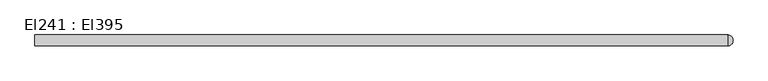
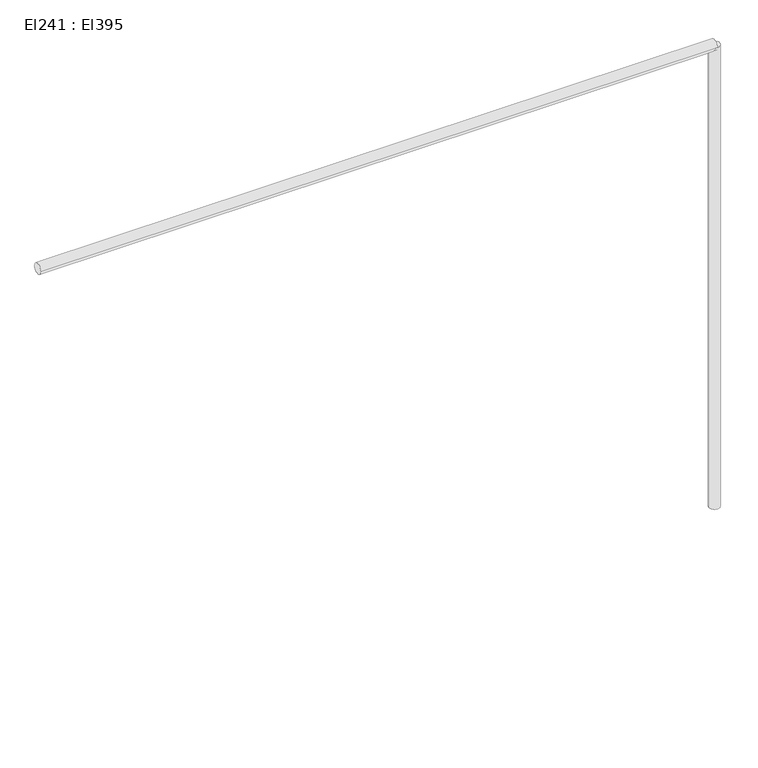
"""IFC4 building model written with IfcOpenShell, lengths in millimetres: cable carrier segment geometry, El241 : El395."""

import ifcopenshell
import ifcopenshell.guid

model = None  # the IFC model being written
_history = None  # IfcOwnerHistory: only IFC2X3 demands one
_inside = {}  # id of a spatial element -> (the spatial element, [elements in it])
_under = {}  # id of a project, library or spatial element -> (it, [spatial elements below it])
_declared = {}  # id of a project -> (the project, [libraries it declares])
_typed = {}  # id of a type object -> (the type object, [elements of that type])
_made_of = {}  # id of a material, layer set ... -> (it, [elements and type objects made of it])


def new_model(schema):
    """Start an empty IFC model of exactly this schema.

    Asked for "IFC4X3", IfcOpenShell would pick the latest addendum, in which some entities
    have other attributes; the version numbers below select the first issue.
    IFC2X3 requires an IfcOwnerHistory on every rooted entity: one is made here for all.
    """
    global model, _history
    if schema == "IFC4X3":
        model = ifcopenshell.file(schema_version=(4, 3, 0, 0))
    else:
        model = ifcopenshell.file(schema=schema)
    _inside.clear()
    _under.clear()
    _declared.clear()
    _typed.clear()
    _made_of.clear()
    _history = None
    if model.schema == "IFC2X3":
        org = make("IfcOrganization", Name="unknown")
        user = make(
            "IfcPersonAndOrganization",
            ThePerson=make("IfcPerson", FamilyName="unknown"),
            TheOrganization=org,
        )
        app = make(
            "IfcApplication",
            ApplicationDeveloper=org,
            Version="unknown",
            ApplicationFullName="unknown",
            ApplicationIdentifier="unknown",
        )
        _history = make(
            "IfcOwnerHistory",
            OwningUser=user,
            OwningApplication=app,
            ChangeAction="ADDED",
            CreationDate=0,
        )
    return model


def make(cls, **values):
    """One entity of the class cls with the attributes given. An attribute that is None is left unset."""
    return model.create_entity(
        cls, **{name: value for name, value in values.items() if value is not None}
    )


def rooted(cls, **values):
    """An entity with a GlobalId (a new one), such as an element, a storey or a relation."""
    return make(cls, GlobalId=ifcopenshell.guid.new(), OwnerHistory=_history, **values)


def si_unit(unit_type, name, prefix=None):
    """IfcSIUnit, for example si_unit("LENGTHUNIT", "METRE", prefix="MILLI")."""
    return make("IfcSIUnit", UnitType=unit_type, Prefix=prefix, Name=name)


def assignment(units):
    """IfcUnitAssignment: the units of a project."""
    return None if units is None else make("IfcUnitAssignment", Units=units)


def point(xyz):
    """IfcCartesianPoint."""
    return None if xyz is None else make("IfcCartesianPoint", Coordinates=xyz)


def direction(xyz):
    """IfcDirection."""
    return None if xyz is None else make("IfcDirection", DirectionRatios=xyz)


def frame(location, z_axis=None, x_axis=None):
    """IfcAxis2Placement3D, a coordinate frame: its origin and axes. An axis left out is left unset."""
    return make(
        "IfcAxis2Placement3D",
        Location=point(location),
        Axis=direction(z_axis),
        RefDirection=direction(x_axis),
    )


def frame_2d(location, x_axis=None):
    """IfcAxis2Placement2D, a coordinate frame in the plane: its origin and x axis."""
    return make(
        "IfcAxis2Placement2D", Location=point(location), RefDirection=direction(x_axis)
    )


def origin():
    """The frame at (0, 0, 0) with its axes left unset."""
    return frame((0.0, 0.0, 0.0))


def place(relative_to, where):
    """IfcLocalPlacement: puts the frame where relative to a parent placement (None: the world)."""
    return make(
        "IfcLocalPlacement", PlacementRelTo=relative_to, RelativePlacement=where
    )


def context(
    kind, dimensions, precision=None, world=None, true_north=None, identifier=None
):
    """IfcGeometricRepresentationContext, for example the 3D "Model" context."""
    return make(
        "IfcGeometricRepresentationContext",
        ContextIdentifier=identifier,
        ContextType=kind,
        CoordinateSpaceDimension=dimensions,
        Precision=precision,
        WorldCoordinateSystem=world,
        TrueNorth=true_north,
    )


def project(units=None, contexts=None):
    """IfcProject with its units and contexts."""
    return rooted(
        "IfcProject",
        Name="project",
        RepresentationContexts=contexts,
        UnitsInContext=assignment(units),
    )


def spatial(cls, under=None, at=None, **own):
    """A site, building, storey or space (cls), placed at a placement, below another one or the project."""
    s = rooted(cls, ObjectPlacement=at, **own)
    if under is not None:
        _under.setdefault(under.id(), (under, []))[1].append(s)
    return s


def circle_curve(where, radius):
    """IfcCircle in the frame where."""
    return make("IfcCircle", Position=where, Radius=radius)


def trimmed(basis, trim1, trim2, sense, master):
    """IfcTrimmedCurve: the piece of a basis curve between two trims."""
    return make(
        "IfcTrimmedCurve",
        BasisCurve=basis,
        Trim1=trim1,
        Trim2=trim2,
        SenseAgreement=sense,
        MasterRepresentation=master,
    )


def segment(curve, same_sense, transition):
    """IfcCompositeCurveSegment."""
    return make(
        "IfcCompositeCurveSegment",
        Transition=transition,
        SameSense=same_sense,
        ParentCurve=curve,
    )


def composite_curve(segments, self_intersect=None):
    """IfcCompositeCurve: segments joined end to end."""
    return make("IfcCompositeCurve", Segments=segments, SelfIntersect=self_intersect)


def outline(outer, holes=None, kind="AREA"):
    """IfcArbitraryClosedProfileDef: a profile drawn as a closed curve; with holes, ...WithVoids."""
    if holes is None:
        return make("IfcArbitraryClosedProfileDef", ProfileType=kind, OuterCurve=outer)
    return make(
        "IfcArbitraryProfileDefWithVoids",
        ProfileType=kind,
        OuterCurve=outer,
        InnerCurves=holes,
    )


def extrude(swept, where, along, depth):
    """IfcExtrudedAreaSolid: the profile swept, set in the frame where, extruded along a direction by depth."""
    return make(
        "IfcExtrudedAreaSolid",
        SweptArea=swept,
        Position=where,
        ExtrudedDirection=direction(along),
        Depth=depth,
    )


def shape(context_of_items, identifier, shape_type, items):
    """IfcShapeRepresentation: the items that make up one representation, for example the "Body"."""
    return make(
        "IfcShapeRepresentation",
        ContextOfItems=context_of_items,
        RepresentationIdentifier=identifier,
        RepresentationType=shape_type,
        Items=items,
    )


def source(mapping_origin, context_of_items, identifier, shape_type, items):
    """IfcRepresentationMap: a shape defined once, which mapped items show again and again."""
    return make(
        "IfcRepresentationMap",
        MappingOrigin=mapping_origin,
        MappedRepresentation=shape(context_of_items, identifier, shape_type, items),
    )


def transform(
    local_origin,
    x_axis=None,
    y_axis=None,
    z_axis=None,
    scale=None,
    scale2=None,
    scale3=None,
    uniform=True,
):
    """IfcCartesianTransformationOperator3D, or its non-uniform kind. x_axis, y_axis, z_axis: its Axis1, 2, 3."""
    if uniform:
        return make(
            "IfcCartesianTransformationOperator3D",
            Axis1=direction(x_axis),
            Axis2=direction(y_axis),
            LocalOrigin=point(local_origin),
            Scale=scale,
            Axis3=direction(z_axis),
        )
    return make(
        "IfcCartesianTransformationOperator3DnonUniform",
        Axis1=direction(x_axis),
        Axis2=direction(y_axis),
        LocalOrigin=point(local_origin),
        Scale=scale,
        Axis3=direction(z_axis),
        Scale2=scale2,
        Scale3=scale3,
    )


def mapped(mapping_source, mapping_target):
    """IfcMappedItem: shows the shape of a source again, moved by a transform."""
    return make(
        "IfcMappedItem", MappingSource=mapping_source, MappingTarget=mapping_target
    )


def made_of(thing, what):
    """Note that an element or type object is made of a material, layer set ...; save() writes the relation."""
    if what is not None:
        _made_of.setdefault(what.id(), (what, []))[1].append(thing)
    return thing


def element(
    cls,
    number,
    at=None,
    inside=None,
    cuts=None,
    type_object=None,
    material=None,
    context=None,
    identifier="Body",
    shape_type=None,
    held_by="IfcProductDefinitionShape",
    body=None,
    shapes=None,
    **own,
):
    """One element of the class cls, such as IfcWall. Its Tag is "e" and its number.

    at: its placement. inside: the storey or other place that contains it. cuts: it is an
    opening in that element (IfcRelVoidsElement). A single representation is given by context,
    identifier, shape_type and body (its items); several are given by shapes. held_by: the class
    of the entity that holds the representations. save() writes the other relations.
    """
    e = rooted(cls, Tag="e%d" % number, ObjectPlacement=at, **own)
    if body is not None:
        shapes = [shape(context, identifier, shape_type, body)]
    if shapes is not None:
        e.Representation = make(held_by, Representations=shapes)
    if inside is not None:
        _inside.setdefault(inside.id(), (inside, []))[1].append(e)
    if cuts is not None:
        rooted(
            "IfcRelVoidsElement", RelatingBuildingElement=cuts, RelatedOpeningElement=e
        )
    if type_object is not None:
        _typed.setdefault(type_object.id(), (type_object, []))[1].append(e)
    return made_of(e, material)


def aggregate(whole, parts):
    """IfcRelAggregates: a whole, such as a stair, and the parts it consists of."""
    return rooted("IfcRelAggregates", RelatingObject=whole, RelatedObjects=parts)


def save(model, path):
    """Write the relations noted so far, then the file.

    IfcRelAggregates (storeys below a building ...), IfcRelContainedInSpatialStructure (elements
    in a storey), IfcRelDefinesByType, IfcRelAssociatesMaterial and IfcRelDeclares: one each for
    every whole, place, type object, material and project.
    """
    for whole, parts in _under.values():
        aggregate(whole, parts)
    for where, things in _inside.values():
        rooted(
            "IfcRelContainedInSpatialStructure",
            RelatedElements=things,
            RelatingStructure=where,
        )
    for kind, things in _typed.values():
        rooted("IfcRelDefinesByType", RelatedObjects=things, RelatingType=kind)
    for what, things in _made_of.values():
        rooted("IfcRelAssociatesMaterial", RelatedObjects=things, RelatingMaterial=what)
    for by, libraries in _declared.values():
        rooted("IfcRelDeclares", RelatingContext=by, RelatedDefinitions=libraries)
    model.write(path)


def el241_el395_66daa9e1(model_context):
    return source(origin(), model_context, "Body", "SweptSolid", [
        extrude(outline(composite_curve([segment(trimmed(circle_curve(frame_2d((11253.2786511, 66.0121745)), 9.5), [point((11243.7786511, 66.0121745))], [point((11262.7786511, 66.0121745))], False, "CARTESIAN"), True, "CONTINUOUS"), segment(trimmed(circle_curve(frame_2d((11253.2786511, 66.0121745)), 9.5), [point((11262.7786511, 66.0121745))], [point((11243.7786511, 66.0121745))], False, "CARTESIAN"), True, "CONTINUOUS")], self_intersect=False)), frame((0.0, 0.0, 1830.0), z_axis=(0.0, 0.0, 1.0), x_axis=(1.0, 0.0, 0.0)), (0.0, 0.0, 1.0), 870.0),
        extrude(outline(composite_curve([segment(trimmed(circle_curve(frame_2d((66.0121745, 2700.0)), 9.5), [point((56.5121745, 2700.0))], [point((75.5121745, 2700.0))], False, "CARTESIAN"), True, "CONTINUOUS"), segment(trimmed(circle_curve(frame_2d((66.0121745, 2700.0)), 9.5), [point((75.5121745, 2700.0))], [point((56.5121745, 2700.0))], False, "CARTESIAN"), True, "CONTINUOUS")], self_intersect=False)), frame((10046.3706511, 0.0, 0.0), z_axis=(1.0, 0.0, 0.0), x_axis=(0.0, 1.0, 0.0)), (0.0, 0.0, 1.0), 1206.91),
    ])


if __name__ == "__main__":
    model = new_model("IFC4")
    model_context = context("Model", 3, world=origin())
    ifc_project = project(units=[si_unit("LENGTHUNIT", "METRE", prefix="MILLI")], contexts=[model_context])
    site = spatial("IfcSite", under=ifc_project)
    building = spatial("IfcBuilding", under=site)
    placement = place(None, origin())
    el241_el395_shape = el241_el395_66daa9e1(model_context)
    element("IfcCableCarrierSegment", 1, ObjectType="El241 : El395", at=placement, inside=building, context=model_context, shape_type="MappedRepresentation", body=[
        mapped(el241_el395_shape, transform((0.0, 0.0, 0.0), x_axis=(1.0, 0.0, 0.0), y_axis=(0.0, 1.0, 0.0), z_axis=(0.0, 0.0, 1.0))),
    ])
    save(model, "model.ifc")
